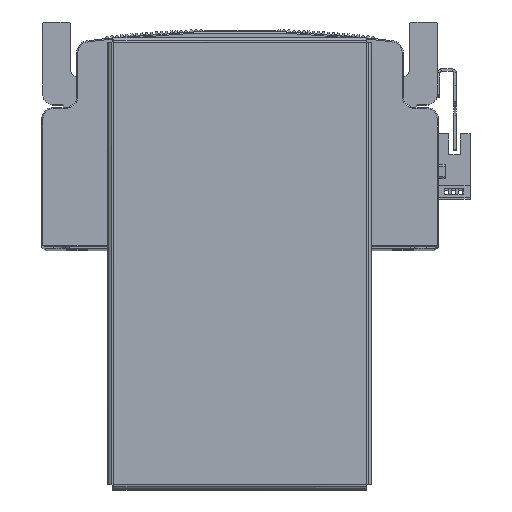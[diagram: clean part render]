
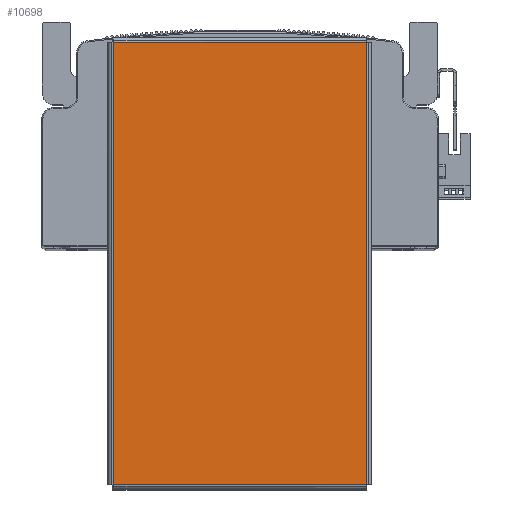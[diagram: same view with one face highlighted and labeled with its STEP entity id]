
A CAD part, top view. The second image highlights one B-rep face of the part: STEP entity #10698.
In plain terms, the highlighted planar face has unit normal (0, 0, 1) as drawn and (0, -1, 0) by its records, which use the part's own axes.
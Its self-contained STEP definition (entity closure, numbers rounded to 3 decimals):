
#4177 = VERTEX_POINT ( 'NONE', #16602 ) ;
#4191 = VERTEX_POINT ( 'NONE', #16567 ) ;
#4239 = VERTEX_POINT ( 'NONE', #16753 ) ;
#4260 = VERTEX_POINT ( 'NONE', #16692 ) ;
#10698 = ADVANCED_FACE ( 'NONE', ( #46363 ), #52723, .F. ) ;
#13236 = EDGE_LOOP ( 'NONE', ( #49325, #49260, #49289, #49212 ) ) ;
#16567 = CARTESIAN_POINT ( 'NONE',  ( 94.763, -1.5, -54.363 ) ) ;
#16602 = CARTESIAN_POINT ( 'NONE',  ( 94.763, -1.5, 54.363 ) ) ;
#16692 = CARTESIAN_POINT ( 'NONE',  ( -94.763, -1.5, -54.363 ) ) ;
#16753 = CARTESIAN_POINT ( 'NONE',  ( -94.763, -1.5, 54.363 ) ) ;
#32463 = LINE ( 'NONE', #36657, #32490 ) ;
#32490 = VECTOR ( 'NONE', #36674, 1000. ) ;
#32509 = VECTOR ( 'NONE', #36877, 1000. ) ;
#32519 = LINE ( 'NONE', #36813, #32522 ) ;
#32521 = LINE ( 'NONE', #36771, #32509 ) ;
#32522 = VECTOR ( 'NONE', #36868, 1000. ) ;
#32523 = LINE ( 'NONE', #36885, #32558 ) ;
#32558 = VECTOR ( 'NONE', #36768, 1000. ) ;
#36657 = CARTESIAN_POINT ( 'NONE',  ( 94.763, -1.5, -54.393 ) ) ;
#36674 = DIRECTION ( 'NONE',  ( 0., 0., 1. ) ) ;
#36768 = DIRECTION ( 'NONE',  ( -1., 0., 0. ) ) ;
#36771 = CARTESIAN_POINT ( 'NONE',  ( -94.763, -1.5, 54.393 ) ) ;
#36813 = CARTESIAN_POINT ( 'NONE',  ( -94.793, -1.5, -54.363 ) ) ;
#36868 = DIRECTION ( 'NONE',  ( 1., 0., 0. ) ) ;
#36877 = DIRECTION ( 'NONE',  ( 0., 0., -1. ) ) ;
#36885 = CARTESIAN_POINT ( 'NONE',  ( 94.793, -1.5, 54.363 ) ) ;
#38653 = EDGE_CURVE ( 'NONE', #4191, #4177, #32463, .T. ) ;
#38686 = EDGE_CURVE ( 'NONE', #4239, #4260, #32521, .T. ) ;
#38692 = EDGE_CURVE ( 'NONE', #4260, #4191, #32519, .T. ) ;
#38711 = EDGE_CURVE ( 'NONE', #4177, #4239, #32523, .T. ) ;
#46363 = FACE_OUTER_BOUND ( 'NONE', #13236, .T. ) ;
#47551 = AXIS2_PLACEMENT_3D ( 'NONE', #52753, #52737, #52710 ) ;
#49212 = ORIENTED_EDGE ( 'NONE', *, *, #38653, .T. ) ;
#49260 = ORIENTED_EDGE ( 'NONE', *, *, #38686, .T. ) ;
#49289 = ORIENTED_EDGE ( 'NONE', *, *, #38692, .T. ) ;
#49325 = ORIENTED_EDGE ( 'NONE', *, *, #38711, .T. ) ;
#52710 = DIRECTION ( 'NONE',  ( 0., 0., 1. ) ) ;
#52723 = PLANE ( 'NONE',  #47551 ) ;
#52737 = DIRECTION ( 'NONE',  ( 0., 1., 0. ) ) ;
#52753 = CARTESIAN_POINT ( 'NONE',  ( 0., -1.5, 0. ) ) ;
